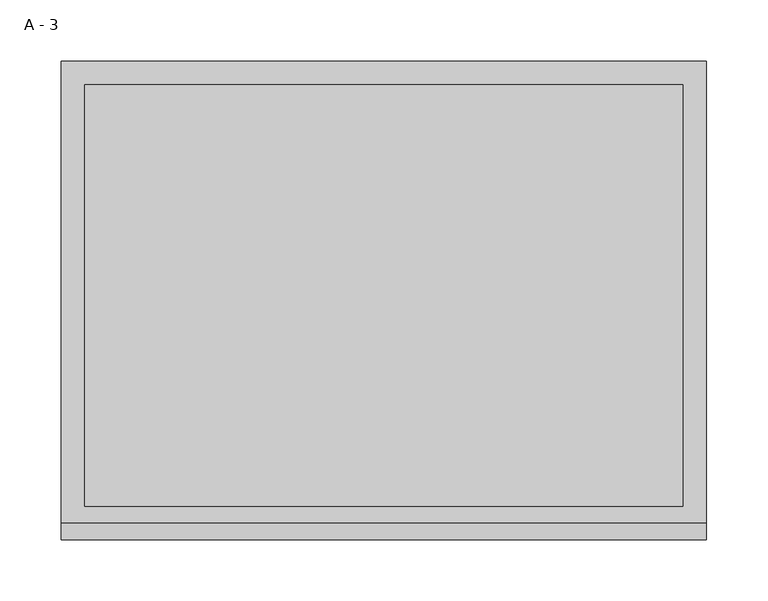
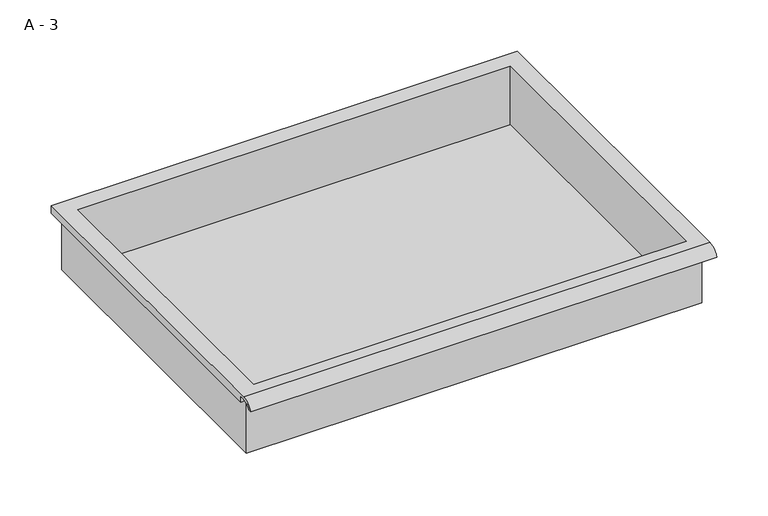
"""IFC4 building model written with IfcOpenShell, lengths in millimetres: furniture geometry, HermanMiller_CoStruc_CO207_Drawer : A - 3."""

from ifc_helpers import new_model, si_unit, frame, origin, place, context, project, spatial, polyline, circle_curve, source, transform, mapped, element, save
from ifc_brep_helpers import plane_surface, cylinder_surface, revolved_surface, advanced_brep


def a_3_5a163b7d(model_context):
    return source(origin(), model_context, "Body", "AdvancedBrep", [
        advanced_brep(
        [(-257.1076517, -176.2125, 1003.2111), (257.2423483, -176.2125, 1003.2111), (257.2423483, -176.2125, 1066.7111), (263.5923483, -176.2125, 1066.7111), (263.5923483, -176.2125, 1073.0182341), (-263.4576517, -176.2125, 1073.0182341), (-263.4576517, -176.2125, 1066.7111), (-257.1076517, -176.2125, 1066.7111), (257.2423483, 185.7375, 1003.2111), (-257.1076517, 185.7375, 1003.2111), (-257.1076517, 185.7375, 1066.7111), (257.2423483, 185.7375, 1066.7111), (263.5923483, -181.6070544, 1076.2361), (263.5923483, 195.2625, 1076.2361), (-263.4576517, 195.2625, 1076.2361), (-263.4576517, -181.6070544, 1076.2361), (244.5423483, -168.275, 1076.2361), (-244.4076517, -168.275, 1076.2361), (-244.4076517, 176.2125, 1076.2361), (244.5423483, 176.2125, 1076.2361), (263.5923483, -195.2625, 1066.7111), (263.5923483, -191.8280601, 1066.7111), (263.5923483, -180.4714815, 1073.0182341), (263.5923483, 195.2625, 1066.7111), (-263.4576517, 195.2625, 1066.7111), (-263.4576517, -180.4714815, 1073.0182341), (-263.4576517, -191.8280601, 1066.7111), (-263.4576517, -195.2625, 1066.7111), (-244.4076517, -168.275, 1006.2372719), (244.5423483, -168.275, 1006.2372719), (244.5423483, 176.2125, 1006.2372719), (-244.4076517, 176.2125, 1006.2372719)],
        [
            (0, 1),
            (1, 2),
            (2, 3),
            (3, 4),
            (4, 5),
            (5, 6),
            (6, 7),
            (7, 0),
            (8, 9),
            (9, 10),
            (10, 11),
            (11, 8),
            (0, 9),
            (8, 1),
            (11, 2),
            (12, 13),
            (13, 14),
            (14, 15),
            (15, 12),
            (16, 17),
            (17, 18),
            (18, 19),
            (19, 16),
            (7, 10),
            (12, 20, circle_curve(frame((263.5923483, -181.6070544, 1061.6850859), z_axis=(1.0, 0.0, 0.0), x_axis=(0.0, 1.0, 0.0)), 14.5510141)),
            (20, 21),
            (21, 22, circle_curve(frame((263.5923483, -181.6070544, 1061.6850859), z_axis=(-1.0, 0.0, 0.0), x_axis=(0.0, 1.0, 0.0)), 11.3898979)),
            (22, 4),
            (3, 23),
            (23, 13),
            (14, 24),
            (24, 6),
            (5, 25),
            (25, 26, circle_curve(frame((-263.4576517, -181.6070544, 1061.6850859), z_axis=(1.0, 0.0, 0.0), x_axis=(0.0, 1.0, 0.0)), 11.3898979)),
            (26, 27),
            (27, 15, circle_curve(frame((-263.4576517, -181.6070544, 1061.6850859), z_axis=(-1.0, 0.0, 0.0), x_axis=(0.0, 1.0, 0.0)), 14.5510141)),
            (27, 20),
            (26, 21),
            (25, 22),
            (24, 23),
            (28, 29),
            (29, 30),
            (30, 31),
            (31, 28),
            (28, 17),
            (16, 29),
            (19, 30),
            (18, 31),
        ],
        [
            plane_surface(frame((257.2423483, -176.2125, 1003.2111), z_axis=(0.0, -1.0, 0.0), x_axis=(1.0, 0.0, 0.0))),
            plane_surface(frame((257.2423483, 185.7375, 1003.2111), z_axis=(0.0, 1.0, 0.0), x_axis=(-1.0, 0.0, 0.0))),
            plane_surface(frame((-257.1076517, -176.2125, 1003.2111), z_axis=(0.0, 0.0, -1.0), x_axis=(0.0, 1.0, 0.0))),
            plane_surface(frame((257.2423483, -176.2125, 1003.2111), z_axis=(1.0, 0.0, 0.0), x_axis=(0.0, 1.0, 0.0))),
            plane_surface(frame((257.2423483, -176.2125, 1076.2361), z_axis=(0.0, 0.0, 1.0), x_axis=(0.0, 1.0, 0.0))),
            plane_surface(frame((-257.1076517, -176.2125, 1076.2361), z_axis=(-1.0, 0.0, 0.0), x_axis=(0.0, 1.0, 0.0))),
            plane_surface(frame((263.5923483, 195.2625, 1076.2361), z_axis=(1.0, 0.0, 0.0), x_axis=(0.0, -1.0, 0.0))),
            plane_surface(frame((-263.4576517, 195.2625, 1076.2361), z_axis=(-1.0, 0.0, 0.0), x_axis=(0.0, 1.0, 0.0))),
            cylinder_surface(frame((-263.4576517, -181.6070544, 1061.6850859), z_axis=(1.0, 0.0, 0.0), x_axis=(0.0, 1.0, 0.0)), 14.5510141),
            plane_surface(frame((263.5923483, -195.2625, 1066.7111), z_axis=(0.0, -7.094172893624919e-12, -1.0), x_axis=(-1.0, 0.0, 0.0))),
            revolved_surface(polyline([(-263.4576517, -170.21715650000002, 1061.6850859), (263.59234829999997, -170.21715650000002, 1061.6850859)]), (-263.4576517, -181.6070544, 1061.6850859), (-1.0, 0.0, 0.0)),
            plane_surface(frame((263.5923483, -180.4714815, 1073.0182341), z_axis=(0.0, -1.7575373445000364e-11, -1.0), x_axis=(-1.0, 0.0, 0.0))),
            plane_surface(frame((263.5923483, -176.2125, 1066.7111), z_axis=(0.0, 0.0, -1.0), x_axis=(-1.0, 0.0, 0.0))),
            plane_surface(frame((263.5923483, 195.2625, 1066.7111), z_axis=(0.0, 1.0, 0.0), x_axis=(-1.0, 0.0, 0.0))),
            plane_surface(frame((244.5423483, -168.275, 1006.2372719), z_axis=(0.0, 0.0, 1.0), x_axis=(-1.0, 0.0, 0.0))),
            plane_surface(frame((-244.4076517, -168.275, 1076.2361), z_axis=(0.0, 1.0, 0.0), x_axis=(0.0, 0.0, -1.0))),
            plane_surface(frame((244.5423483, -168.275, 1076.2361), z_axis=(-1.0, 0.0, 0.0), x_axis=(0.0, 0.0, -1.0))),
            plane_surface(frame((244.5423483, 176.2125, 1076.2361), z_axis=(0.0, -1.0, 0.0), x_axis=(0.0, 0.0, -1.0))),
            plane_surface(frame((-244.4076517, 176.2125, 1076.2361), z_axis=(1.0, 0.0, 0.0), x_axis=(0.0, 0.0, -1.0))),
        ],
        [
            (0, [[1, 2, 3, 4, 5, 6, 7, 8]]),
            (1, [[9, 10, 11, 12]]),
            (2, [[-1, 13, -9, 14]]),
            (3, [[-14, -12, 15, -2]]),
            (4, [[16, 17, 18, 19], [20, 21, 22, 23]]),
            (5, [[-13, -8, 24, -10]]),
            (6, [[-16, 25, 26, 27, 28, -4, 29, 30]]),
            (7, [[31, 32, -6, 33, 34, 35, 36, -18]]),
            (8, [[-25, -19, -36, 37]]),
            (9, [[-26, -37, -35, 38]]),
            (10, [[-27, -38, -34, 39]]),
            (11, [[-28, -39, -33, -5]]),
            (12, [[-29, -3, -15, -11, -24, -7, -32, 40]]),
            (13, [[-30, -40, -31, -17]]),
            (14, [[41, 42, 43, 44]]),
            (15, [[-41, 45, -20, 46]]),
            (16, [[-42, -46, -23, 47]]),
            (17, [[-43, -47, -22, 48]]),
            (18, [[-44, -48, -21, -45]]),
        ],
    ),
    ])


if __name__ == "__main__":
    model = new_model("IFC4")
    model_context = context("Model", 3, world=origin())
    ifc_project = project(units=[si_unit("LENGTHUNIT", "METRE", prefix="MILLI")], contexts=[model_context])
    site = spatial("IfcSite", under=ifc_project)
    building = spatial("IfcBuilding", under=site)
    placement = place(None, origin())
    a_3_shape = a_3_5a163b7d(model_context)
    element("IfcFurniture", 1, ObjectType="HermanMiller_CoStruc_CO207_Drawer : A - 3", at=placement, inside=building, context=model_context, shape_type="MappedRepresentation", body=[
        mapped(a_3_shape, transform((0.0, 0.0, 0.0), x_axis=(1.0, 0.0, 0.0), y_axis=(0.0, 1.0, 0.0), z_axis=(0.0, 0.0, 1.0))),
    ])
    save(model, "model.ifc")
